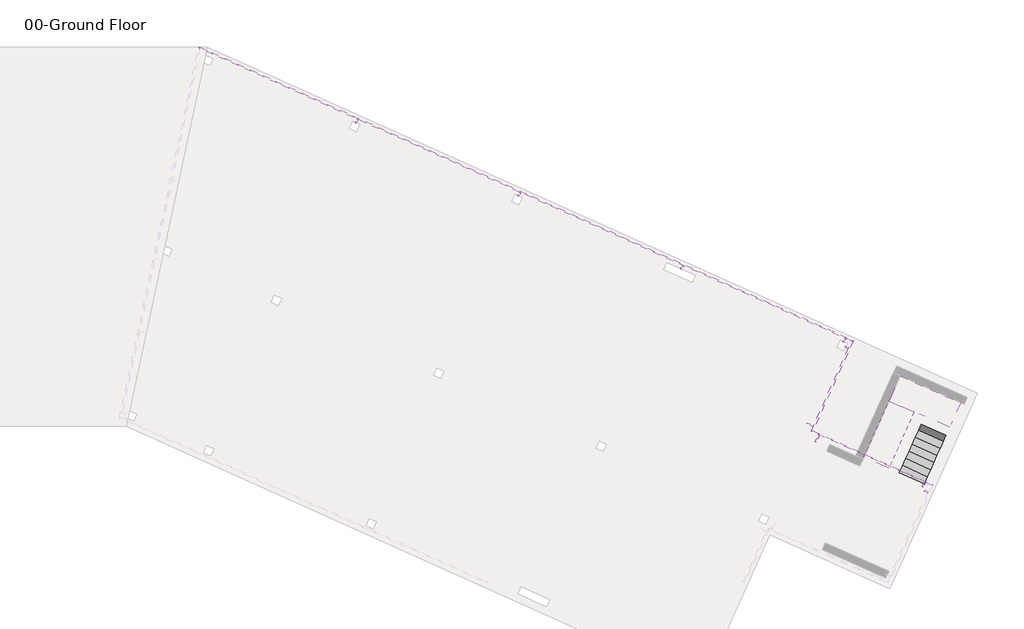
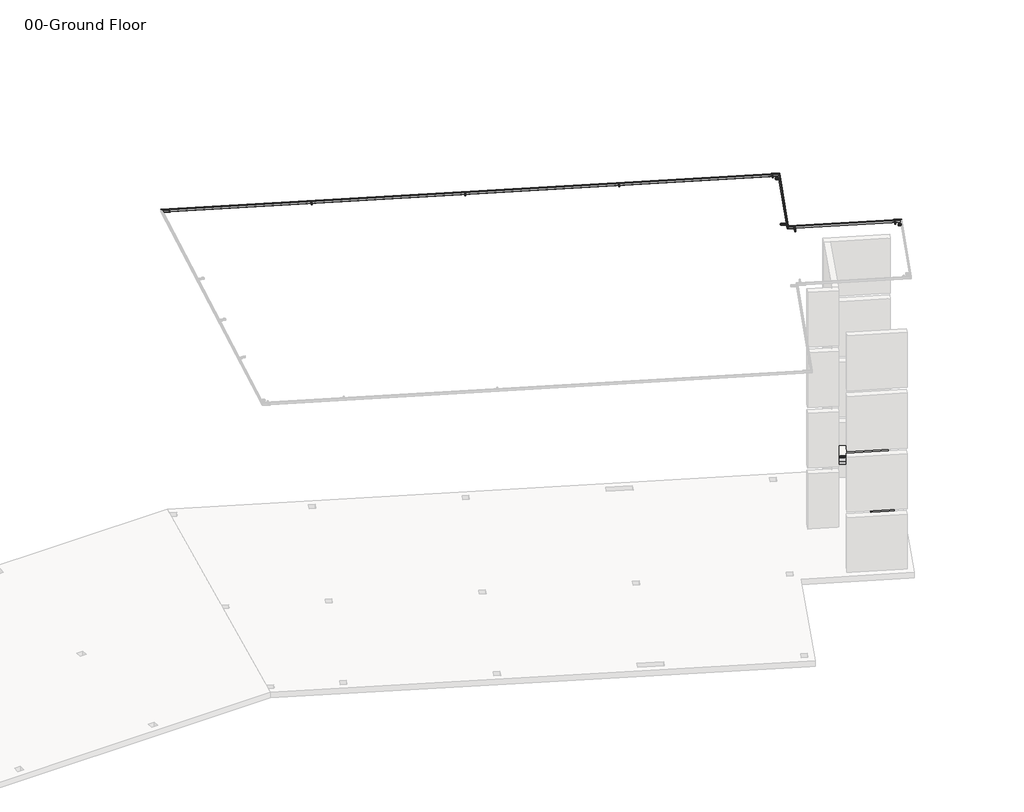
# One storey, part 3 of 3: 12 beams, 2 stair flights, 1 slab.
"""IFC4 building model written with IfcOpenShell, lengths in millimetres."""

from ifc_helpers import new_model, si_unit, frame, origin, place, context, project, spatial, polyline, ellipse_curve, faceted_brep, transform, mapped, element, save
from ifc_brep_helpers import plane_surface, cylinder_surface, revolved_surface, advanced_brep
from components import hss_hollow_structural_section_hss3x2x1_8_a8fac2c2, hss_hollow_structural_section_hss3x2x1_8_4cf7df58, hss_hollow_structural_section_hss3x2x1_8_9bae5ac0, hss_hollow_structural_section_hss3x2x1_8_4448584e, hss_hollow_structural_section_hss3x2x1_8_013797e3, hss_hollow_structural_section_hss3x2x1_8_d322ad7d, hss_hollow_structural_section_hss3x2x1_8_eb60367d

model = new_model("IFC4")

# Units and contexts
model_context = context("Model", 3, world=origin())
ifc_project = project(units=[si_unit("LENGTHUNIT", "METRE", prefix="MILLI")], contexts=[model_context])

# Site, building, storey
site = spatial("IfcSite", under=ifc_project)
building = spatial("IfcBuilding", under=site)
storey = spatial("IfcBuildingStorey", under=building, Name="00-Ground Floor", Elevation=0.0)

# Beams
placement = place(None, origin())
hss_hollow_structural_section_hss3x2x1_8_shape = hss_hollow_structural_section_hss3x2x1_8_a8fac2c2(model_context)
element("IfcBeam", 1, ObjectType="HSS-Hollow Structural Section : HSS3X2X1/8", at=placement, inside=storey, context=model_context, shape_type="MappedRepresentation", body=[
    mapped(hss_hollow_structural_section_hss3x2x1_8_shape, transform((36965.3915736, -2497.5805101, 16658.2302755), x_axis=(0.4091945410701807, 0.9109449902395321, 0.052335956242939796), y_axis=(-0.9121951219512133, 0.4097560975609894, 0.0), z_axis=(-0.021444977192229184, -0.04774060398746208, 0.9986295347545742))),
])
element("IfcBeam", 2, ObjectType="HSS-Hollow Structural Section : HSS3X2X1/8", at=placement, inside=storey, context=model_context, shape_type="MappedRepresentation", body=[
    mapped(hss_hollow_structural_section_hss3x2x1_8_shape, transform((43360.2442565, -5370.1346564, 16658.2302755), x_axis=(0.40919454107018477, 0.9109449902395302, 0.05233595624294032), y_axis=(-0.9121951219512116, 0.40975609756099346, 0.0), z_axis=(-0.0214449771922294, -0.047740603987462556, 0.9986295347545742))),
])
element("IfcBeam", 3, ObjectType="HSS-Hollow Structural Section : HSS3X2X1/8", at=placement, inside=storey, context=model_context, shape_type="MappedRepresentation", body=[
    mapped(hss_hollow_structural_section_hss3x2x1_8_shape, transform((56149.9496224, -11115.2429491, 16658.2302755), x_axis=(0.40919454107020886, 0.9109449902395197, 0.05233595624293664), y_axis=(-0.9121951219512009, 0.40975609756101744, 0.0), z_axis=(-0.021444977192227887, -0.04774060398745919, 0.9986295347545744))),
])
hss_hollow_structural_section_hss3x2x1_8_2_shape = hss_hollow_structural_section_hss3x2x1_8_4cf7df58(model_context)
element("IfcBeam", 4, ObjectType="HSS-Hollow Structural Section : HSS3X2X1/8", at=placement, inside=storey, context=model_context, shape_type="MappedRepresentation", body=[
    mapped(hss_hollow_structural_section_hss3x2x1_8_2_shape, transform((49758.4300196, -8235.2687316, 16658.6565762), x_axis=(0.40919454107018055, 0.9109449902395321, 0.052335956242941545), y_axis=(-0.9121951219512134, 0.40975609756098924, 0.0), z_axis=(-0.021444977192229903, -0.047740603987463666, 0.998629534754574))),
])
hss_hollow_structural_section_hss3x2x1_8_3_shape = hss_hollow_structural_section_hss3x2x1_8_9bae5ac0(model_context)
element("IfcBeam", 5, ObjectType="HSS-Hollow Structural Section : HSS3X2X1/8", at=placement, inside=storey, context=model_context, shape_type="MappedRepresentation", body=[
    mapped(hss_hollow_structural_section_hss3x2x1_8_3_shape, transform((56223.3592947, -11323.7476071, 16649.8389058), x_axis=(0.9121951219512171, -0.4097560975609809, 0.0), y_axis=(0.40919454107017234, 0.9109449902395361, 0.052335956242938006), z_axis=(-0.021444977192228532, -0.0477406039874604, 0.9986295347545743))),
])
hss_hollow_structural_section_hss3x2x1_8_4_shape = hss_hollow_structural_section_hss3x2x1_8_4448584e(model_context)
element("IfcBeam", 6, ObjectType="HSS-Hollow Structural Section : HSS3X2X1/8", at=placement, inside=storey, context=model_context, shape_type="MappedRepresentation", body=[
    mapped(hss_hollow_structural_section_hss3x2x1_8_4_shape, transform((54845.0693796, -14392.0834896, 16473.5557118), x_axis=(0.9121951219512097, -0.4097560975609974, 0.0), y_axis=(0.40919454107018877, 0.9109449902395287, 0.05233595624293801), z_axis=(-0.0214449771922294, -0.047740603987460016, 0.9986295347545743))),
])
hss_hollow_structural_section_hss3x2x1_8_5_shape = hss_hollow_structural_section_hss3x2x1_8_013797e3(model_context)
element("IfcBeam", 7, ObjectType="HSS-Hollow Structural Section : HSS3X2X1/8", at=placement, inside=storey, context=model_context, shape_type="MappedRepresentation", body=[
    mapped(hss_hollow_structural_section_hss3x2x1_8_5_shape, transform((55111.4186399, -14914.9250173, 16454.2803791), x_axis=(-0.409194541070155, -0.9109449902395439, -0.0523359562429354), y_axis=(0.912195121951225, -0.40975609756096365, 0.0), z_axis=(-0.021444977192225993, -0.04774060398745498, 0.9986295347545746))),
])
hss_hollow_structural_section_hss3x2x1_8_6_shape = hss_hollow_structural_section_hss3x2x1_8_d322ad7d(model_context)
element("IfcBeam", 8, ObjectType="HSS-Hollow Structural Section : HSS3X2X1/8", at=placement, inside=storey, context=model_context, shape_type="MappedRepresentation", body=[
    mapped(hss_hollow_structural_section_hss3x2x1_8_6_shape, transform((59281.9747374, -16788.3298954, 16454.2803791), x_axis=(0.40919454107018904, 0.9109449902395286, 0.05233595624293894), y_axis=(-0.9121951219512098, 0.4097560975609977, 0.0), z_axis=(-0.021444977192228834, -0.047740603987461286, 0.9986295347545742))),
])
hss_hollow_structural_section_hss3x2x1_8_7_shape = hss_hollow_structural_section_hss3x2x1_8_eb60367d(model_context)
element("IfcBeam", 9, ObjectType="HSS-Hollow Structural Section : HSS3X2X1/8", at=placement, inside=storey, context=model_context, shape_type="MappedRepresentation", body=[
    mapped(hss_hollow_structural_section_hss3x2x1_8_7_shape, transform((59352.9844438, -17002.1773347, 16445.582054), x_axis=(0.9121951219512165, -0.4097560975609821, 0.0), y_axis=(0.4091945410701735, 0.9109449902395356, 0.05233595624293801), z_axis=(-0.021444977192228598, -0.04774060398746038, 0.9986295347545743))),
])
element("IfcBeam", 10, ObjectType="HSS-Hollow Structural Section : HSS5X2X1/8", at=placement, inside=storey, context=model_context, shape_type="AdvancedBrep", body=[
    advanced_brep(
    [(56518.5551186, -11086.120904, 16705.6903584), (56526.4681746, -11082.8861722, 16700.1140396), (30771.4031294, 486.233955, 16700.1140396), (30775.5166497, 477.596911, 16705.6903584), (56467.0018937, -11105.6744879, 16703.6485024), (30803.5876534, 422.2762939, 16703.6485024), (56459.3415797, -11108.346568, 16697.455373), (30807.9539155, 414.2019015, 16697.455373), (56461.8123499, -11102.8461629, 16582.3988703), (30810.4246857, 419.7023065, 16582.3988703), (56469.7254058, -11099.6114312, 16576.8225515), (30806.3111655, 428.3393506, 16576.8225515), (56521.2786307, -11080.0578473, 16578.8644074), (30778.2401618, 483.6599677, 16578.8644074), (56528.9389447, -11077.3857672, 16585.0575369), (30773.8738996, 491.73436, 16585.0575369), (56518.6183041, -11085.980241, 16702.7479963), (56467.0650792, -11105.533825, 16700.7061404), (30803.6508388, 422.4169568, 16700.7061404), (30775.5798351, 477.7375739, 16702.7479963), (56522.5748321, -11084.3628752, 16699.9598369), (30773.523075, 482.0560959, 16699.9598369), (56525.0456022, -11078.8624701, 16584.9033342), (30775.9938452, 487.5565009, 16584.9033342), (56521.2154452, -11080.1985102, 16581.8067695), (30778.1769763, 483.5193048, 16581.8067695), (56469.6622203, -11099.7520941, 16579.7649136), (30806.24798, 428.1986877, 16579.7649136), (56465.7056924, -11101.36946, 16582.553073), (30808.3047401, 423.8801657, 16582.553073), (56463.2349222, -11106.869865, 16697.6095756), (30805.8339699, 418.3797606, 16697.6095756)],
    [
        (0, 1, ellipse_curve(frame((56518.6814896, -11085.8395781, 16699.8056342), z_axis=(-0.35567512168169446, 0.93387669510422, 0.03700710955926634), x_axis=(0.934363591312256, 0.3543940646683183, 0.03700710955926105)), 8.3336777, 5.8928)),
        (1, 2),
        (2, 3, ellipse_curve(frame((30775.6430206, 477.8782368, 16699.8056342), z_axis=(0.8916297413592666, 0.45093186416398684, 0.04070452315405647), x_axis=(0.45225713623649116, -0.891280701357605, -0.03289671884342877)), 9.3749569, 5.8928)),
        (3, 0),
        (4, 0),
        (3, 5),
        (5, 4),
        (6, 4, ellipse_curve(frame((56467.1282647, -11105.3931621, 16697.7637783), z_axis=(-0.35567512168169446, 0.93387669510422, 0.03700710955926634), x_axis=(0.934363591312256, 0.3543940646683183, 0.03700710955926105)), 8.3336777, 5.8928)),
        (5, 7, ellipse_curve(frame((30803.7140243, 422.5576197, 16697.7637783), z_axis=(0.8916297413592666, 0.45093186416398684, 0.04070452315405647), x_axis=(0.45225713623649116, -0.891280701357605, -0.03289671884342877)), 9.3749569, 5.8928)),
        (7, 6),
        (8, 6),
        (7, 9),
        (9, 8),
        (10, 8, ellipse_curve(frame((56469.5990349, -11099.892757, 16582.7072756), z_axis=(-0.35567512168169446, 0.93387669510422, 0.03700710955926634), x_axis=(0.934363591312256, 0.3543940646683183, 0.03700710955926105)), 8.3336777, 5.8928)),
        (9, 11, ellipse_curve(frame((30806.1847945, 428.0580248, 16582.7072756), z_axis=(0.8916297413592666, 0.45093186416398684, 0.04070452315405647), x_axis=(0.45225713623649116, -0.891280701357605, -0.03289671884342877)), 9.3749569, 5.8928)),
        (11, 10),
        (12, 10),
        (11, 13),
        (13, 12),
        (14, 12, ellipse_curve(frame((56521.1522597, -11080.3391731, 16584.7491316), z_axis=(-0.35567512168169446, 0.93387669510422, 0.03700710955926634), x_axis=(0.934363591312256, 0.3543940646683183, 0.03700710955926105)), 8.3336777, 5.8928)),
        (13, 15, ellipse_curve(frame((30778.1137908, 483.3786418, 16584.7491316), z_axis=(0.8916297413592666, 0.45093186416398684, 0.04070452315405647), x_axis=(0.45225713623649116, -0.891280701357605, -0.03289671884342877)), 9.3749569, 5.8928)),
        (15, 14),
        (1, 14),
        (15, 2),
        (16, 17),
        (17, 18),
        (18, 19),
        (19, 16),
        (20, 16, ellipse_curve(frame((56518.6814896, -11085.8395781, 16699.8056342), z_axis=(0.35567512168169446, -0.93387669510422, -0.03700710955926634), x_axis=(-0.934363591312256, -0.3543940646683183, -0.03700710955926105)), 4.1668388, 2.9464)),
        (19, 21, ellipse_curve(frame((30775.6430206, 477.8782368, 16699.8056342), z_axis=(-0.8916297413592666, -0.45093186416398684, -0.04070452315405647), x_axis=(-0.45225713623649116, 0.891280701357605, 0.03289671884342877)), 4.6874785, 2.9464)),
        (21, 20),
        (22, 20),
        (21, 23),
        (23, 22),
        (24, 22, ellipse_curve(frame((56521.1522597, -11080.3391731, 16584.7491316), z_axis=(0.35567512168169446, -0.93387669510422, -0.03700710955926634), x_axis=(-0.934363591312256, -0.3543940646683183, -0.03700710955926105)), 4.1668388, 2.9464)),
        (23, 25, ellipse_curve(frame((30778.1137908, 483.3786418, 16584.7491316), z_axis=(-0.8916297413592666, -0.45093186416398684, -0.04070452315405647), x_axis=(-0.45225713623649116, 0.891280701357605, 0.03289671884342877)), 4.6874785, 2.9464)),
        (25, 24),
        (26, 24),
        (25, 27),
        (27, 26),
        (28, 26, ellipse_curve(frame((56469.5990349, -11099.892757, 16582.7072756), z_axis=(0.35567512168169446, -0.93387669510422, -0.03700710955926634), x_axis=(-0.934363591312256, -0.3543940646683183, -0.03700710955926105)), 4.1668388, 2.9464)),
        (27, 29, ellipse_curve(frame((30806.1847945, 428.0580248, 16582.7072756), z_axis=(-0.8916297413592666, -0.45093186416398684, -0.04070452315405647), x_axis=(-0.45225713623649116, 0.891280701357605, 0.03289671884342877)), 4.6874785, 2.9464)),
        (29, 28),
        (30, 28),
        (29, 31),
        (31, 30),
        (17, 30, ellipse_curve(frame((56467.1282647, -11105.3931621, 16697.7637783), z_axis=(0.35567512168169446, -0.93387669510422, -0.03700710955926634), x_axis=(-0.934363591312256, -0.3543940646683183, -0.03700710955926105)), 4.1668388, 2.9464)),
        (31, 18, ellipse_curve(frame((30803.7140243, 422.5576197, 16697.7637783), z_axis=(-0.8916297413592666, -0.45093186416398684, -0.04070452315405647), x_axis=(-0.45225713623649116, 0.891280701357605, 0.03289671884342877)), 4.6874785, 2.9464)),
    ],
    [
        cylinder_surface(frame((56500.8871169, -11077.846384, 16699.8056342), z_axis=(0.9121951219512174, -0.40975609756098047, 0.0), x_axis=(-0.40919454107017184, -0.9109449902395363, -0.05233595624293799)), 5.8928),
        plane_surface(frame((56500.7607459, -11078.1277098, 16705.6903584), z_axis=(-0.02144497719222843, -0.04774060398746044, 0.9986295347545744), x_axis=(-0.9121951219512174, 0.40975609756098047, 0.0))),
        cylinder_surface(frame((56484.9226374, -11113.3863562, 16697.7637783), z_axis=(0.9121951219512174, -0.40975609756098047, 0.0), x_axis=(-0.40919454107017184, -0.9109449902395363, -0.05233595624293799)), 5.8928),
        plane_surface(frame((56482.5113358, -11118.7543728, 16697.455373), z_axis=(-0.4091945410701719, -0.9109449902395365, -0.052335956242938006), x_axis=(-0.9121951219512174, 0.40975609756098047, 0.0))),
        cylinder_surface(frame((56487.3934075, -11107.8859512, 16582.7072756), z_axis=(0.9121951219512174, -0.40975609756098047, 0.0), x_axis=(-0.40919454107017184, -0.9109449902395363, -0.05233595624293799)), 5.8928),
        plane_surface(frame((56487.5197785, -11107.6046253, 16576.8225515), z_axis=(0.02144497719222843, 0.04774060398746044, -0.9986295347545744), x_axis=(-0.9121951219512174, 0.40975609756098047, 0.0))),
        cylinder_surface(frame((56503.3578871, -11072.3459789, 16584.7491316), z_axis=(0.9121951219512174, -0.40975609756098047, 0.0), x_axis=(-0.40919454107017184, -0.9109449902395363, -0.05233595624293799)), 5.8928),
        plane_surface(frame((56505.7691886, -11066.9779623, 16585.0575369), z_axis=(0.4091945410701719, 0.9109449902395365, 0.052335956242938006), x_axis=(-0.9121951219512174, 0.40975609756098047, 0.0))),
        plane_surface(frame((56484.8594519, -11113.5270191, 16700.7061404), z_axis=(0.02144497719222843, 0.04774060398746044, -0.9986295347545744), x_axis=(-0.9121951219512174, 0.40975609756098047, 0.0))),
        revolved_surface(polyline([(30771.111773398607, 476.68807927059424, 16699.65143153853), (56520.16353050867, -11089.730891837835, 16699.65143153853)]), (56500.8871169, -11077.846384, 16699.8056342), (-0.9121951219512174, 0.40975609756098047, 0.0)),
        plane_surface(frame((56502.0927677, -11075.1623757, 16699.9598369), z_axis=(-0.4091945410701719, -0.9109449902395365, -0.052335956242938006), x_axis=(-0.9121951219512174, 0.40975609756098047, 0.0))),
        revolved_surface(polyline([(30773.58254363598, 482.1884843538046, 16584.594928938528), (56522.63430062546, -11084.230486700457, 16584.594928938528)]), (56503.3578871, -11072.3459789, 16584.7491316), (-0.9121951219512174, 0.40975609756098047, 0.0)),
        plane_surface(frame((56503.4210725, -11072.205316, 16581.8067695), z_axis=(-0.02144497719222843, -0.04774060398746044, 0.9986295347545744), x_axis=(-0.9121951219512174, 0.40975609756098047, 0.0))),
        revolved_surface(polyline([(30801.65354725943, 426.8678671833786, 16582.55307293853), (56471.08107575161, -11103.7840707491, 16582.55307293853)]), (56487.3934075, -11107.8859512, 16582.7072756), (-0.9121951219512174, 0.40975609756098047, 0.0)),
        plane_surface(frame((56486.1877568, -11110.5699595, 16582.553073), z_axis=(0.4091945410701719, 0.9109449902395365, 0.052335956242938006), x_axis=(-0.9121951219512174, 0.40975609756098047, 0.0))),
        revolved_surface(polyline([(30799.182777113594, 421.3674622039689, 16697.609575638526), (56468.61030560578, -11109.284475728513, 16697.609575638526)]), (56484.9226374, -11113.3863562, 16697.7637783), (-0.9121951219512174, 0.40975609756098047, 0.0)),
        plane_surface(frame((30806.1934373, 410.2827416, 16779.4356677), z_axis=(-0.8916297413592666, -0.45093186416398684, -0.04070452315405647), x_axis=(0.4527652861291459, -0.888019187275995, -0.08015933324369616))),
        plane_surface(frame((56457.5811015, -11112.2657278, 16779.4356677), z_axis=(0.3556751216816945, -0.9338766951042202, -0.037007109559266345), x_axis=(0.9346096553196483, 0.35539618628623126, 0.014083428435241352))),
    ],
    [
        (0, [[1, 2, 3, 4]]),
        (1, [[5, -4, 6, 7]]),
        (2, [[8, -7, 9, 10]]),
        (3, [[11, -10, 12, 13]]),
        (4, [[14, -13, 15, 16]]),
        (5, [[17, -16, 18, 19]]),
        (6, [[20, -19, 21, 22]]),
        (7, [[23, -22, 24, -2]]),
        (8, [[25, 26, 27, 28]]),
        (9, [[29, -28, 30, 31]]),
        (10, [[32, -31, 33, 34]]),
        (11, [[35, -34, 36, 37]]),
        (12, [[38, -37, 39, 40]]),
        (13, [[41, -40, 42, 43]]),
        (14, [[44, -43, 45, 46]]),
        (15, [[47, -46, 48, -26]]),
        (16, [[-24, -21, -18, -15, -12, -9, -6, -3], [-48, -45, -42, -39, -36, -33, -30, -27]]),
        (17, [[-1, -5, -8, -11, -14, -17, -20, -23], [-25, -29, -32, -35, -38, -41, -44, -47]]),
    ],
),
])
element("IfcBeam", 11, ObjectType="HSS-Hollow Structural Section : HSS5X2X1/8", at=placement, inside=storey, context=model_context, shape_type="AdvancedBrep", body=[
    advanced_brep(
    [(54925.8991442, -14631.6764659, 16501.9897587), (54933.8122002, -14628.4417342, 16496.4134399), (56526.4681746, -11082.8861722, 16700.1140396), (56518.5551186, -11086.120904, 16705.6903584), (54874.3459194, -14651.2300499, 16499.9479028), (56467.0018937, -11105.6744879, 16703.6485024), (54866.6856053, -14653.90213, 16493.7547733), (56459.3415797, -11108.346568, 16697.455373), (54869.1563755, -14648.4017249, 16378.6982707), (56461.8123499, -11102.8461629, 16582.3988703), (54877.0694315, -14645.1669932, 16373.1219519), (56469.7254058, -11099.6114312, 16576.8225515), (54928.6226563, -14625.6134092, 16375.1638078), (56521.2786307, -11080.0578473, 16578.8644074), (54936.2829704, -14622.9413292, 16381.3569373), (56528.9389447, -11077.3857672, 16585.0575369), (54925.9623297, -14631.535803, 16499.0473967), (54874.4091048, -14651.089387, 16497.0055407), (56467.0650792, -11105.533825, 16700.7061404), (56518.6183041, -11085.980241, 16702.7479963), (54929.9188577, -14629.9184372, 16496.2592373), (56522.5748321, -11084.3628752, 16699.9598369), (54932.3896279, -14624.4180321, 16381.2027346), (56525.0456022, -11078.8624701, 16584.9033342), (54928.5594708, -14625.7540722, 16378.1061699), (56521.2154452, -11080.1985102, 16581.8067695), (54877.006246, -14645.3076561, 16376.0643139), (56469.6622203, -11099.7520941, 16579.7649136), (54873.049718, -14646.925022, 16378.8524733), (56465.7056924, -11101.36946, 16582.553073), (54870.5789478, -14652.425427, 16493.908976), (56463.2349222, -11106.869865, 16697.6095756)],
    [
        (0, 1, ellipse_curve(frame((54926.0255152, -14631.3951401, 16496.1050346), z_axis=(-0.3556751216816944, 0.93387669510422, 0.0370071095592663), x_axis=(-0.934363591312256, -0.3543940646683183, -0.037007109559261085)), 8.3336777, 5.8928)),
        (1, 2),
        (2, 3, ellipse_curve(frame((56518.6814896, -11085.8395781, 16699.8056342), z_axis=(0.35567512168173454, -0.9338766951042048, -0.037007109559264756), x_axis=(-0.9343635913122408, -0.3543940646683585, -0.03700710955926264)), 8.3336777, 5.8928)),
        (3, 0),
        (4, 0),
        (3, 5),
        (5, 4),
        (6, 4, ellipse_curve(frame((54874.4722903, -14650.948724, 16494.0631787), z_axis=(-0.3556751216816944, 0.93387669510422, 0.0370071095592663), x_axis=(-0.934363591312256, -0.3543940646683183, -0.037007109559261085)), 8.3336777, 5.8928)),
        (5, 7, ellipse_curve(frame((56467.1282647, -11105.3931621, 16697.7637783), z_axis=(0.35567512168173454, -0.9338766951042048, -0.037007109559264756), x_axis=(-0.9343635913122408, -0.3543940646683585, -0.03700710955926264)), 8.3336777, 5.8928)),
        (7, 6),
        (8, 6),
        (7, 9),
        (9, 8),
        (10, 8, ellipse_curve(frame((54876.9430605, -14645.448319, 16379.006676), z_axis=(-0.3556751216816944, 0.93387669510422, 0.0370071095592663), x_axis=(-0.934363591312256, -0.3543940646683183, -0.037007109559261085)), 8.3336777, 5.8928)),
        (9, 11, ellipse_curve(frame((56469.5990349, -11099.892757, 16582.7072756), z_axis=(0.35567512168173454, -0.9338766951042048, -0.037007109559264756), x_axis=(-0.9343635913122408, -0.3543940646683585, -0.03700710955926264)), 8.3336777, 5.8928)),
        (11, 10),
        (12, 10),
        (11, 13),
        (13, 12),
        (14, 12, ellipse_curve(frame((54928.4962854, -14625.8947351, 16381.0485319), z_axis=(-0.3556751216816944, 0.93387669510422, 0.0370071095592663), x_axis=(-0.934363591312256, -0.3543940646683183, -0.037007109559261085)), 8.3336777, 5.8928)),
        (13, 15, ellipse_curve(frame((56521.1522597, -11080.3391731, 16584.7491316), z_axis=(0.35567512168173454, -0.9338766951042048, -0.037007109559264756), x_axis=(-0.9343635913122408, -0.3543940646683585, -0.03700710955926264)), 8.3336777, 5.8928)),
        (15, 14),
        (1, 14),
        (15, 2),
        (16, 17),
        (17, 18),
        (18, 19),
        (19, 16),
        (20, 16, ellipse_curve(frame((54926.0255152, -14631.3951401, 16496.1050346), z_axis=(0.3556751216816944, -0.93387669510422, -0.0370071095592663), x_axis=(0.934363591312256, 0.3543940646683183, 0.037007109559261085)), 4.1668388, 2.9464)),
        (19, 21, ellipse_curve(frame((56518.6814896, -11085.8395781, 16699.8056342), z_axis=(-0.35567512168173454, 0.9338766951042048, 0.037007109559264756), x_axis=(0.9343635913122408, 0.3543940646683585, 0.03700710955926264)), 4.1668388, 2.9464)),
        (21, 20),
        (22, 20),
        (21, 23),
        (23, 22),
        (24, 22, ellipse_curve(frame((54928.4962854, -14625.8947351, 16381.0485319), z_axis=(0.3556751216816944, -0.93387669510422, -0.0370071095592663), x_axis=(0.934363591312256, 0.3543940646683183, 0.037007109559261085)), 4.1668388, 2.9464)),
        (23, 25, ellipse_curve(frame((56521.1522597, -11080.3391731, 16584.7491316), z_axis=(-0.35567512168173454, 0.9338766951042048, 0.037007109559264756), x_axis=(0.9343635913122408, 0.3543940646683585, 0.03700710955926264)), 4.1668388, 2.9464)),
        (25, 24),
        (26, 24),
        (25, 27),
        (27, 26),
        (28, 26, ellipse_curve(frame((54876.9430605, -14645.448319, 16379.006676), z_axis=(0.3556751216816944, -0.93387669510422, -0.0370071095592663), x_axis=(0.934363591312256, 0.3543940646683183, 0.037007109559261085)), 4.1668388, 2.9464)),
        (27, 29, ellipse_curve(frame((56469.5990349, -11099.892757, 16582.7072756), z_axis=(-0.35567512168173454, 0.9338766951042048, 0.037007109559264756), x_axis=(0.9343635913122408, 0.3543940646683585, 0.03700710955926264)), 4.1668388, 2.9464)),
        (29, 28),
        (30, 28),
        (29, 31),
        (31, 30),
        (17, 30, ellipse_curve(frame((54874.4722903, -14650.948724, 16494.0631787), z_axis=(0.3556751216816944, -0.93387669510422, -0.0370071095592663), x_axis=(0.934363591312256, 0.3543940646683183, 0.037007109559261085)), 4.1668388, 2.9464)),
        (31, 18, ellipse_curve(frame((56467.1282647, -11105.3931621, 16697.7637783), z_axis=(-0.35567512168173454, 0.9338766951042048, 0.037007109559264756), x_axis=(0.9343635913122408, 0.3543940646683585, 0.03700710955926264)), 4.1668388, 2.9464)),
    ],
    [
        cylinder_surface(frame((54918.0432754, -14649.1651262, 16495.0841066), z_axis=(-0.40919454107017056, -0.9109449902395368, -0.05233595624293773), x_axis=(-0.9121951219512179, 0.40975609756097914, 0.0)), 5.8928),
        plane_surface(frame((54917.9169045, -14649.4464521, 16500.9688308), z_axis=(-0.021444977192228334, -0.04774060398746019, 0.9986295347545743), x_axis=(0.4091945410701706, 0.9109449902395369, 0.052335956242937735))),
        cylinder_surface(frame((54882.4545301, -14633.1787379, 16495.0841066), z_axis=(-0.40919454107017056, -0.9109449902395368, -0.05233595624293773), x_axis=(-0.9121951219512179, 0.40975609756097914, 0.0)), 5.8928),
        plane_surface(frame((54877.0791467, -14630.7641272, 16495.0841066), z_axis=(-0.9121951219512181, 0.40975609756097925, 0.0), x_axis=(0.4091945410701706, 0.9109449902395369, 0.052335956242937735))),
        cylinder_surface(frame((54884.9253002, -14627.6783329, 16380.027604), z_axis=(-0.40919454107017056, -0.9109449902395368, -0.05233595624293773), x_axis=(-0.9121951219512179, 0.40975609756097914, 0.0)), 5.8928),
        plane_surface(frame((54885.0516712, -14627.3970071, 16374.1428798), z_axis=(0.021444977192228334, 0.04774060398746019, -0.9986295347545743), x_axis=(0.4091945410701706, 0.9109449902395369, 0.052335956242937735))),
        cylinder_surface(frame((54920.5140456, -14643.6647212, 16380.027604), z_axis=(-0.40919454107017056, -0.9109449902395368, -0.05233595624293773), x_axis=(-0.9121951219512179, 0.40975609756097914, 0.0)), 5.8928),
        plane_surface(frame((54925.889429, -14646.0793319, 16380.027604), z_axis=(0.9121951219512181, -0.40975609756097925, 0.0), x_axis=(0.4091945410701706, 0.9109449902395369, 0.052335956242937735))),
        plane_surface(frame((54882.3913446, -14633.3194009, 16498.0264687), z_axis=(0.021444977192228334, 0.04774060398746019, -0.9986295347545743), x_axis=(0.4091945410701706, 0.9109449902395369, 0.052335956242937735))),
        revolved_surface(polyline([(56517.19944861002, -11081.948264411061, 16699.959836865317), (54922.13217266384, -14632.8718430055, 16495.950831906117)]), (54918.0432754, -14649.1651262, 16495.0841066), (0.40919454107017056, 0.9109449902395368, 0.05233595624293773)),
        plane_surface(frame((54920.7309671, -14650.3724316, 16495.0841066), z_axis=(-0.9121951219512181, 0.40975609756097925, 0.0), x_axis=(0.4091945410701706, 0.9109449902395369, 0.052335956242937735))),
        revolved_surface(polyline([(56519.670218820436, -11076.447859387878, 16584.903334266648), (54924.6029428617, -14627.37143801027, 16380.894329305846)]), (54920.5140456, -14643.6647212, 16380.027604), (0.40919454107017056, 0.9109449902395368, 0.05233595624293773)),
        plane_surface(frame((54920.5772311, -14643.5240583, 16377.0852419), z_axis=(-0.021444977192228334, -0.04774060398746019, 0.9986295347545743), x_axis=(0.4091945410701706, 0.9109449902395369, 0.052335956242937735))),
        revolved_surface(polyline([(56468.11699391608, -11096.001443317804, 16582.86147833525), (54873.0497179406, -14646.92502197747, 16378.852473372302)]), (54884.9253002, -14627.6783329, 16380.027604), (0.40919454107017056, 0.9109449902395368, 0.05233595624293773)),
        plane_surface(frame((54882.2376085, -14626.4710275, 16380.027604), z_axis=(0.9121951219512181, -0.40975609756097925, 0.0), x_axis=(0.4091945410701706, 0.9109449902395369, 0.052335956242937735))),
        revolved_surface(polyline([(56465.64622376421, -11101.501848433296, 16697.91798092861), (54870.578947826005, -14652.425427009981, 16493.908975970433)]), (54882.4545301, -14633.1787379, 16495.0841066), (0.40919454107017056, 0.9109449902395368, 0.05233595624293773)),
        plane_surface(frame((56457.5811015, -11112.2657278, 16779.4356677), z_axis=(-0.3556751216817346, 0.933876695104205, 0.03700710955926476), x_axis=(0.9346096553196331, 0.35539618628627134, 0.014083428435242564))),
        plane_surface(frame((54932.051722, -14632.3608941, 16578.3937346), z_axis=(0.35567512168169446, -0.9338766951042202, -0.03700710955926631), x_axis=(0.9346096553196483, 0.35539618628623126, 0.01408342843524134))),
    ],
    [
        (0, [[1, 2, 3, 4]]),
        (1, [[5, -4, 6, 7]]),
        (2, [[8, -7, 9, 10]]),
        (3, [[11, -10, 12, 13]]),
        (4, [[14, -13, 15, 16]]),
        (5, [[17, -16, 18, 19]]),
        (6, [[20, -19, 21, 22]]),
        (7, [[23, -22, 24, -2]]),
        (8, [[25, 26, 27, 28]]),
        (9, [[29, -28, 30, 31]]),
        (10, [[32, -31, 33, 34]]),
        (11, [[35, -34, 36, 37]]),
        (12, [[38, -37, 39, 40]]),
        (13, [[41, -40, 42, 43]]),
        (14, [[44, -43, 45, 46]]),
        (15, [[47, -46, 48, -26]]),
        (16, [[-24, -21, -18, -15, -12, -9, -6, -3], [-48, -45, -42, -39, -36, -33, -30, -27]]),
        (17, [[-1, -5, -8, -11, -14, -17, -20, -23], [-25, -29, -32, -35, -38, -41, -44, -47]]),
    ],
),
])
element("IfcBeam", 12, ObjectType="HSS-Hollow Structural Section : HSS5X2X1/8", at=placement, inside=storey, context=model_context, shape_type="AdvancedBrep", body=[
    advanced_brep(
    [(59652.5293881, -16754.8686611, 16501.9897587), (59660.4424441, -16751.6339293, 16496.4134399), (54933.8122002, -14628.4417342, 16496.4134399), (54925.8991442, -14631.6764659, 16501.9897587), (59600.9761633, -16774.422245, 16499.9479028), (54874.3459194, -14651.2300499, 16499.9479028), (59593.3158492, -16777.0943251, 16493.7547733), (54866.6856053, -14653.90213, 16493.7547733), (59595.7866194, -16771.59392, 16378.6982707), (54869.1563755, -14648.4017249, 16378.6982707), (59603.6996754, -16768.3591883, 16373.1219519), (54877.0694315, -14645.1669932, 16373.1219519), (59655.2529002, -16748.8056044, 16375.1638078), (54928.6226563, -14625.6134092, 16375.1638078), (59662.9132143, -16746.1335243, 16381.3569373), (54936.2829704, -14622.9413292, 16381.3569373), (59652.5925736, -16754.7279982, 16499.0473967), (59601.0393487, -16774.2815821, 16497.0055407), (54874.4091048, -14651.089387, 16497.0055407), (54925.9623297, -14631.535803, 16499.0473967), (59656.5491016, -16753.1106323, 16496.2592373), (54929.9188577, -14629.9184372, 16496.2592373), (59659.0198718, -16747.6102272, 16381.2027346), (54932.3896279, -14624.4180321, 16381.2027346), (59655.1897147, -16748.9462673, 16378.1061699), (54928.5594708, -14625.7540722, 16378.1061699), (59603.6364899, -16768.4998512, 16376.0643139), (54877.006246, -14645.3076561, 16376.0643139), (59599.6799619, -16770.1172171, 16378.8524733), (54873.049718, -14646.925022, 16378.8524733), (59597.2091917, -16775.6176221, 16493.908976), (54870.5789478, -14652.425427, 16493.908976)],
    [
        (0, 1, ellipse_curve(frame((59652.6557591, -16754.5873352, 16496.1050346), z_axis=(-0.35567512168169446, 0.93387669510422, 0.03700710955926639), x_axis=(0.9343635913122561, 0.35439406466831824, 0.037007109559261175)), 8.3336777, 5.8928)),
        (1, 2),
        (2, 3, ellipse_curve(frame((54926.0255152, -14631.3951401, 16496.1050346), z_axis=(0.3556751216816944, -0.93387669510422, -0.0370071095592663), x_axis=(0.9343635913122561, 0.35439406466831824, 0.037007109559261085)), 8.3336777, 5.8928)),
        (3, 0),
        (4, 0),
        (3, 5),
        (5, 4),
        (6, 4, ellipse_curve(frame((59601.1025342, -16774.1409192, 16494.0631787), z_axis=(-0.35567512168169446, 0.93387669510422, 0.03700710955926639), x_axis=(0.9343635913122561, 0.35439406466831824, 0.037007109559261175)), 8.3336777, 5.8928)),
        (5, 7, ellipse_curve(frame((54874.4722903, -14650.948724, 16494.0631787), z_axis=(0.3556751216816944, -0.93387669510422, -0.0370071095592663), x_axis=(0.9343635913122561, 0.35439406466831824, 0.037007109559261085)), 8.3336777, 5.8928)),
        (7, 6),
        (8, 6),
        (7, 9),
        (9, 8),
        (10, 8, ellipse_curve(frame((59603.5733044, -16768.6405141, 16379.006676), z_axis=(-0.35567512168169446, 0.93387669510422, 0.03700710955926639), x_axis=(0.9343635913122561, 0.35439406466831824, 0.037007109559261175)), 8.3336777, 5.8928)),
        (9, 11, ellipse_curve(frame((54876.9430605, -14645.448319, 16379.006676), z_axis=(0.3556751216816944, -0.93387669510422, -0.0370071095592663), x_axis=(0.9343635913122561, 0.35439406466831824, 0.037007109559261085)), 8.3336777, 5.8928)),
        (11, 10),
        (12, 10),
        (11, 13),
        (13, 12),
        (14, 12, ellipse_curve(frame((59655.1265293, -16749.0869302, 16381.0485319), z_axis=(-0.35567512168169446, 0.93387669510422, 0.03700710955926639), x_axis=(0.9343635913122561, 0.35439406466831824, 0.037007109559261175)), 8.3336777, 5.8928)),
        (13, 15, ellipse_curve(frame((54928.4962854, -14625.8947351, 16381.0485319), z_axis=(0.3556751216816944, -0.93387669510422, -0.0370071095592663), x_axis=(0.9343635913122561, 0.35439406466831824, 0.037007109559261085)), 8.3336777, 5.8928)),
        (15, 14),
        (1, 14),
        (15, 2),
        (16, 17),
        (17, 18),
        (18, 19),
        (19, 16),
        (20, 16, ellipse_curve(frame((59652.6557591, -16754.5873352, 16496.1050346), z_axis=(0.35567512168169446, -0.93387669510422, -0.03700710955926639), x_axis=(-0.9343635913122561, -0.35439406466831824, -0.037007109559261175)), 4.1668388, 2.9464)),
        (19, 21, ellipse_curve(frame((54926.0255152, -14631.3951401, 16496.1050346), z_axis=(-0.3556751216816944, 0.93387669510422, 0.0370071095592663), x_axis=(-0.9343635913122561, -0.35439406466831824, -0.037007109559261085)), 4.1668388, 2.9464)),
        (21, 20),
        (22, 20),
        (21, 23),
        (23, 22),
        (24, 22, ellipse_curve(frame((59655.1265293, -16749.0869302, 16381.0485319), z_axis=(0.35567512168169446, -0.93387669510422, -0.03700710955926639), x_axis=(-0.9343635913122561, -0.35439406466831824, -0.037007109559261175)), 4.1668388, 2.9464)),
        (23, 25, ellipse_curve(frame((54928.4962854, -14625.8947351, 16381.0485319), z_axis=(-0.3556751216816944, 0.93387669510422, 0.0370071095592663), x_axis=(-0.9343635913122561, -0.35439406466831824, -0.037007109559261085)), 4.1668388, 2.9464)),
        (25, 24),
        (26, 24),
        (25, 27),
        (27, 26),
        (28, 26, ellipse_curve(frame((59603.5733044, -16768.6405141, 16379.006676), z_axis=(0.35567512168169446, -0.93387669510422, -0.03700710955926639), x_axis=(-0.9343635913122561, -0.35439406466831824, -0.037007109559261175)), 4.1668388, 2.9464)),
        (27, 29, ellipse_curve(frame((54876.9430605, -14645.448319, 16379.006676), z_axis=(-0.3556751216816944, 0.93387669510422, 0.0370071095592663), x_axis=(-0.9343635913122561, -0.35439406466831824, -0.037007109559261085)), 4.1668388, 2.9464)),
        (29, 28),
        (30, 28),
        (29, 31),
        (31, 30),
        (17, 30, ellipse_curve(frame((59601.1025342, -16774.1409192, 16494.0631787), z_axis=(0.35567512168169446, -0.93387669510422, -0.03700710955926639), x_axis=(-0.9343635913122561, -0.35439406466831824, -0.037007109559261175)), 4.1668388, 2.9464)),
        (31, 18, ellipse_curve(frame((54874.4722903, -14650.948724, 16494.0631787), z_axis=(-0.3556751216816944, 0.93387669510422, 0.0370071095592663), x_axis=(-0.9343635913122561, -0.35439406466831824, -0.037007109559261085)), 4.1668388, 2.9464)),
    ],
    [
        cylinder_surface(frame((59634.8613864, -16746.5941411, 16496.1050346), z_axis=(0.9121951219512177, -0.4097560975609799, 0.0), x_axis=(-0.40919454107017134, -0.9109449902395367, -0.05233595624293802)), 5.8928),
        plane_surface(frame((59634.7350154, -16746.8754669, 16501.9897587), z_axis=(-0.02144497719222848, -0.047740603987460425, 0.9986295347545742), x_axis=(-0.9121951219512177, 0.4097560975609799, 0.0))),
        cylinder_surface(frame((59618.8969069, -16782.1341133, 16494.0631787), z_axis=(0.9121951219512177, -0.4097560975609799, 0.0), x_axis=(-0.40919454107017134, -0.9109449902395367, -0.05233595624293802)), 5.8928),
        plane_surface(frame((59616.4856053, -16787.50213, 16493.7547733), z_axis=(-0.40919454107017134, -0.9109449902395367, -0.05233595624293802), x_axis=(-0.9121951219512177, 0.4097560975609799, 0.0))),
        cylinder_surface(frame((59621.3676771, -16776.6337083, 16379.006676), z_axis=(0.9121951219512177, -0.4097560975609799, 0.0), x_axis=(-0.40919454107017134, -0.9109449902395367, -0.05233595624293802)), 5.8928),
        plane_surface(frame((59621.494048, -16776.3523824, 16373.1219519), z_axis=(0.02144497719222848, 0.047740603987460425, -0.9986295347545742), x_axis=(-0.9121951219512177, 0.4097560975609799, 0.0))),
        cylinder_surface(frame((59637.3321566, -16741.093736, 16381.0485319), z_axis=(0.9121951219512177, -0.4097560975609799, 0.0), x_axis=(-0.40919454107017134, -0.9109449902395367, -0.05233595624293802)), 5.8928),
        plane_surface(frame((59639.7434582, -16735.7257194, 16381.3569373), z_axis=(0.40919454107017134, 0.9109449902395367, 0.05233595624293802), x_axis=(-0.9121951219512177, 0.4097560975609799, 0.0))),
        plane_surface(frame((59618.8337214, -16782.2747762, 16497.0055407), z_axis=(0.02144497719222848, 0.047740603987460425, -0.9986295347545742), x_axis=(-0.9121951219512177, 0.4097560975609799, 0.0))),
        revolved_surface(polyline([(54922.13217271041, -14632.871843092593, 16495.950831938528), (59654.13780000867, -16758.47864893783, 16495.950831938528)]), (59634.8613864, -16746.5941411, 16496.1050346), (-0.9121951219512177, 0.4097560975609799, 0.0)),
        plane_surface(frame((59636.0670372, -16743.9101328, 16496.2592373), z_axis=(-0.40919454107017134, -0.9109449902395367, -0.05233595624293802), x_axis=(-0.9121951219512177, 0.4097560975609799, 0.0))),
        revolved_surface(polyline([(54924.60294294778, -14627.37143800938, 16380.894329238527), (59656.60857020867, -16752.97824383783, 16380.894329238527)]), (59637.3321566, -16741.093736, 16381.0485319), (-0.9121951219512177, 0.4097560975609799, 0.0)),
        plane_surface(frame((59637.3953421, -16740.9530731, 16378.1061699), z_axis=(-0.02144497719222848, -0.047740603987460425, 0.9986295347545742), x_axis=(-0.9121951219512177, 0.4097560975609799, 0.0))),
        revolved_surface(polyline([(54873.04971800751, -14646.925021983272, 16378.852473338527), (59605.0553452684, -16772.53182781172, 16378.852473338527)]), (59621.3676771, -16776.6337083, 16379.006676), (-0.9121951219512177, 0.4097560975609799, 0.0)),
        plane_surface(frame((59620.1620263, -16779.3177166, 16378.8524733), z_axis=(0.40919454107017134, 0.9109449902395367, 0.05233595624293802), x_axis=(-0.9121951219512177, 0.4097560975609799, 0.0))),
        revolved_surface(polyline([(54870.57894780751, -14652.42542698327, 16493.908976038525), (59602.58457510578, -16778.032232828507, 16493.908976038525)]), (59618.8969069, -16782.1341133, 16494.0631787), (-0.9121951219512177, 0.4097560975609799, 0.0)),
        plane_surface(frame((54932.051722, -14632.3608941, 16578.3937346), z_axis=(-0.35567512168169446, 0.9338766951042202, 0.03700710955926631), x_axis=(0.9346096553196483, 0.35539618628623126, 0.01408342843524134))),
        plane_surface(frame((59591.555371, -16781.0134849, 16575.735068), z_axis=(0.3556751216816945, -0.9338766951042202, -0.0370071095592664), x_axis=(0.9346096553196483, 0.35539618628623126, 0.014083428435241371))),
    ],
    [
        (0, [[1, 2, 3, 4]]),
        (1, [[5, -4, 6, 7]]),
        (2, [[8, -7, 9, 10]]),
        (3, [[11, -10, 12, 13]]),
        (4, [[14, -13, 15, 16]]),
        (5, [[17, -16, 18, 19]]),
        (6, [[20, -19, 21, 22]]),
        (7, [[23, -22, 24, -2]]),
        (8, [[25, 26, 27, 28]]),
        (9, [[29, -28, 30, 31]]),
        (10, [[32, -31, 33, 34]]),
        (11, [[35, -34, 36, 37]]),
        (12, [[38, -37, 39, 40]]),
        (13, [[41, -40, 42, 43]]),
        (14, [[44, -43, 45, 46]]),
        (15, [[47, -46, 48, -26]]),
        (16, [[-24, -21, -18, -15, -12, -9, -6, -3], [-48, -45, -42, -39, -36, -33, -30, -27]]),
        (17, [[-1, -5, -8, -11, -14, -17, -20, -23], [-25, -29, -32, -35, -38, -41, -44, -47]]),
    ],
),
])

# Slab
element("IfcSlab", 13, ObjectType="7\" Thickness", at=placement, inside=storey, context=model_context, shape_type="Brep", body=[
    faceted_brep([(59335.95414, -14064.6614634, 1775.0117647), (59343.7599937, -14047.2841463, 1775.0117647), (60316.8897498, -14484.4119512, 1775.0117647), (60424.981695, -14243.7786923, 1775.0117647), (60746.211701, -13528.6595122, 1775.0117647), (58382.896579, -12467.0634146, 1775.0117647), (57954.7646338, -13420.1666736, 1775.0117647), (57945.7687742, -13440.1931707, 1775.0117647), (57937.9629205, -13457.5704878, 1775.0117647), (58911.0926766, -13894.6982927, 1775.0117647), (58918.8985303, -13877.3209756, 1775.0117647), (59335.95414, -14064.6614634, 1597.2117647), (59343.7599937, -14047.2841463, 1597.2117647), (59343.7599937, -14047.2841463, 1577.7882353), (59343.7599937, -14047.2841463, 1426.5203527), (60316.8897498, -14484.4119512, 1426.5203527), (60316.8897498, -14484.4119512, 1577.7882353), (60424.981695, -14243.7786923, 1597.2117647), (60746.211701, -13528.6595122, 1597.2117647), (58382.896579, -12467.0634146, 1597.2117647), (57954.7646338, -13420.1666736, 1597.2117647), (57945.7687742, -13440.1931707, 1611.4174115), (57937.9629205, -13457.5704878, 1623.7438821), (58911.0926766, -13894.6982927, 1623.7438821), (58918.8985303, -13877.3209756, 1611.4174115), (58918.8985303, -13877.3209756, 1597.2117647), (58927.8943899, -13857.2944785, 1597.2117647), (59451.8519389, -13806.6508874, 1597.2117647)], [[[0, 1, 2, 3, 4, 5, 6, 7, 8, 9, 10]], [[1, 0, 11, 12]], [[2, 1, 12, 13, 14, 15, 16]], [[2, 16, 15, 17, 18, 4, 3]], [[5, 4, 18, 19]], [[5, 19, 20, 21, 7, 6]], [[8, 7, 21, 22]], [[9, 8, 22, 23]], [[10, 9, 23, 24]], [[0, 10, 24, 25, 11]], [[25, 26, 20, 19, 18, 17, 27, 12, 11]], [[26, 25, 24]], [[27, 17, 15, 14]], [[12, 27, 14, 13]], [[20, 26, 24, 23, 22, 21]]]),
])

# Stair flights
element("IfcStairFlight", 14, ObjectType="3/4\" Nosing", at=placement, inside=storey, context=model_context, shape_type="Brep", body=[
    faceted_brep([(58469.5043839, -15993.5436585, 197.2235294), (58344.6107254, -16271.5807317, 197.2235294), (59317.7404815, -16708.7085366, 197.2235294), (59442.63414, -16430.6714634, 197.2235294), (58469.5043839, -15993.5436585, 45.9556468), (58440.4025375, -16058.3299118, 0.0), (58344.6107254, -16271.5807317, 0.0), (59317.7404815, -16708.7085366, 0.0), (59413.5322936, -16495.4577167, 0.0), (59442.63414, -16430.6714634, 45.9556468), (58594.3980425, -15715.5065854, 394.4470588), (58469.5043839, -15993.5436585, 394.4470588), (59442.63414, -16430.6714634, 394.4470588), (59567.5277985, -16152.6343902, 394.4470588), (58594.3980425, -15715.5065854, 243.1791762), (59567.5277985, -16152.6343902, 243.1791762), (58719.291701, -15437.4695122, 591.6705882), (58594.3980425, -15715.5065854, 591.6705882), (59567.5277985, -16152.6343902, 591.6705882), (59692.4214571, -15874.5973171, 591.6705882), (58719.291701, -15437.4695122, 440.4027056), (59692.4214571, -15874.5973171, 440.4027056), (58844.1853595, -15159.432439, 788.8941176), (58719.291701, -15437.4695122, 788.8941176), (59692.4214571, -15874.5973171, 788.8941176), (59817.3151156, -15596.5602439, 788.8941176), (58844.1853595, -15159.432439, 637.626235), (59817.3151156, -15596.5602439, 637.626235), (58969.0790181, -14881.3953659, 986.1176471), (58844.1853595, -15159.432439, 986.1176471), (59817.3151156, -15596.5602439, 986.1176471), (59942.2087742, -15318.5231707, 986.1176471), (58969.0790181, -14881.3953659, 834.8497644), (59942.2087742, -15318.5231707, 834.8497644), (59093.9726766, -14603.3582927, 1183.3411765), (58969.0790181, -14881.3953659, 1183.3411765), (59942.2087742, -15318.5231707, 1183.3411765), (60067.1024327, -15040.4860976, 1183.3411765), (59093.9726766, -14603.3582927, 1032.0732938), (60067.1024327, -15040.4860976, 1032.0732938), (59218.8663351, -14325.3212195, 1380.5647059), (59093.9726766, -14603.3582927, 1380.5647059), (60067.1024327, -15040.4860976, 1380.5647059), (60191.9960912, -14762.4490244, 1380.5647059), (59218.8663351, -14325.3212195, 1229.2968232), (60191.9960912, -14762.4490244, 1229.2968232), (59343.7599937, -14047.2841463, 1577.7882353), (59218.8663351, -14325.3212195, 1577.7882353), (60191.9960912, -14762.4490244, 1577.7882353), (60309.0838961, -14501.7892683, 1577.7882353), (60316.8897498, -14484.4119512, 1577.7882353), (59343.7599937, -14047.2841463, 1426.5203527), (60309.0838961, -14501.7892683, 1414.1938821), (60316.8897498, -14484.4119512, 1426.5203527)], [[[0, 1, 2, 3]], [[1, 0, 4, 5, 6]], [[2, 1, 6, 7]], [[3, 2, 7, 8, 9]], [[10, 11, 12, 13]], [[11, 10, 14, 4, 0]], [[0, 3, 12, 11]], [[13, 12, 3, 9, 15]], [[16, 17, 18, 19]], [[17, 16, 20, 14, 10]], [[10, 13, 18, 17]], [[19, 18, 13, 15, 21]], [[22, 23, 24, 25]], [[23, 22, 26, 20, 16]], [[16, 19, 24, 23]], [[25, 24, 19, 21, 27]], [[28, 29, 30, 31]], [[29, 28, 32, 26, 22]], [[22, 25, 30, 29]], [[31, 30, 25, 27, 33]], [[34, 35, 36, 37]], [[35, 34, 38, 32, 28]], [[28, 31, 36, 35]], [[37, 36, 31, 33, 39]], [[40, 41, 42, 43]], [[41, 40, 44, 38, 34]], [[34, 37, 42, 41]], [[43, 42, 37, 39, 45]], [[46, 47, 48, 49, 50]], [[47, 46, 51, 44, 40]], [[40, 43, 48, 47]], [[49, 48, 43, 45, 52]], [[46, 50, 53, 51]], [[7, 6, 5, 8]], [[8, 5, 4, 14, 20, 26, 32, 38, 44, 51, 53, 52, 45, 39, 33, 27, 21, 15, 9]], [[50, 49, 52, 53]]]),
])
element("IfcStairFlight", 15, ObjectType="3/4\" Nosing", at=placement, inside=storey, context=model_context, shape_type="Brep", body=[
    faceted_brep([(58786.1990181, -14172.7353659, 1972.2352941), (58911.0926766, -13894.6982927, 1972.2352941), (57937.9629205, -13457.5704878, 1972.2352941), (57813.069262, -13735.607561, 1972.2352941), (58786.1990181, -14172.7353659, 1820.9674115), (58911.0926766, -13894.6982927, 1623.7438821), (58911.0926766, -13894.6982927, 1775.0117647), (57937.9629205, -13457.5704878, 1623.7438821), (57937.9629205, -13457.5704878, 1775.0117647), (57813.069262, -13735.607561, 1820.9674115), (58661.3053595, -14450.772439, 2169.4588235), (58786.1990181, -14172.7353659, 2169.4588235), (57813.069262, -13735.607561, 2169.4588235), (57688.1756034, -14013.6446341, 2169.4588235), (58661.3053595, -14450.772439, 2018.1909409), (57688.1756034, -14013.6446341, 2018.1909409), (58536.411701, -14728.8095122, 2366.6823529), (58661.3053595, -14450.772439, 2366.6823529), (57688.1756034, -14013.6446341, 2366.6823529), (57563.2819449, -14291.6817073, 2366.6823529), (58536.411701, -14728.8095122, 2215.4144703), (57563.2819449, -14291.6817073, 2215.4144703), (58411.5180425, -15006.8465854, 2563.9058824), (58536.411701, -14728.8095122, 2563.9058824), (57563.2819449, -14291.6817073, 2563.9058824), (57438.3882864, -14569.7187805, 2563.9058824), (58411.5180425, -15006.8465854, 2412.6379997), (57438.3882864, -14569.7187805, 2412.6379997), (58286.6243839, -15284.8836585, 2761.1294118), (58411.5180425, -15006.8465854, 2761.1294118), (57438.3882864, -14569.7187805, 2761.1294118), (57313.4946278, -14847.7558537, 2761.1294118), (58286.6243839, -15284.8836585, 2609.8615291), (57313.4946278, -14847.7558537, 2609.8615291), (58161.7307254, -15562.9207317, 2958.3529412), (58286.6243839, -15284.8836585, 2958.3529412), (57313.4946278, -14847.7558537, 2958.3529412), (57188.6009693, -15125.7929268, 2958.3529412), (58161.7307254, -15562.9207317, 2807.0850585), (57188.6009693, -15125.7929268, 2807.0850585), (58036.8370668, -15840.9578049, 3004.3085879), (57919.749262, -16101.617561, 3189.2056468), (56946.6195059, -15664.4897561, 3189.2056468), (57063.7073107, -15403.83, 3004.3085879), (58036.8370668, -15840.9578049, 3155.5764706), (58161.7307254, -15562.9207317, 3155.5764706), (57188.6009693, -15125.7929268, 3155.5764706), (57063.7073107, -15403.83, 3155.5764706), (57919.749262, -16101.617561, 3352.8), (58036.8370668, -15840.9578049, 3352.8), (57063.7073107, -15403.83, 3352.8), (56946.6195059, -15664.4897561, 3352.8)], [[[0, 1, 2, 3]], [[1, 0, 4, 5, 6]], [[2, 1, 6, 5, 7, 8]], [[3, 2, 8, 7, 9]], [[10, 11, 12, 13]], [[11, 10, 14, 4, 0]], [[12, 11, 0, 3]], [[13, 12, 3, 9, 15]], [[16, 17, 18, 19]], [[17, 16, 20, 14, 10]], [[18, 17, 10, 13]], [[19, 18, 13, 15, 21]], [[22, 23, 24, 25]], [[23, 22, 26, 20, 16]], [[24, 23, 16, 19]], [[25, 24, 19, 21, 27]], [[28, 29, 30, 31]], [[29, 28, 32, 26, 22]], [[30, 29, 22, 25]], [[31, 30, 25, 27, 33]], [[34, 35, 36, 37]], [[35, 34, 38, 32, 28]], [[36, 35, 28, 31]], [[37, 36, 31, 33, 39]], [[5, 4, 14, 20, 26, 32, 38, 40, 41, 42, 43, 39, 33, 27, 21, 15, 9, 7]], [[44, 45, 46, 47]], [[45, 44, 40, 38, 34]], [[46, 45, 34, 37]], [[47, 46, 37, 39, 43]], [[48, 49, 50, 51]], [[49, 48, 41, 40, 44]], [[50, 49, 44, 47]], [[51, 50, 47, 43, 42]], [[48, 51, 42, 41]]]),
])

save(model, "model.ifc")
